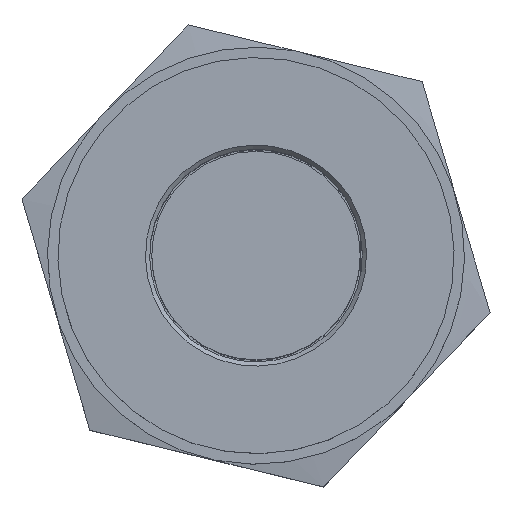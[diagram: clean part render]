
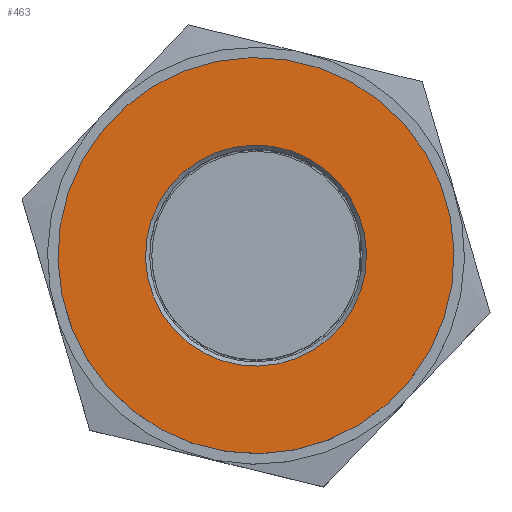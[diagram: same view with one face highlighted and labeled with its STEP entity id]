
A CAD part, top view. The second image highlights one B-rep face of the part: STEP entity #463.
In plain terms, the highlighted planar face has unit normal (0, 0, 1).
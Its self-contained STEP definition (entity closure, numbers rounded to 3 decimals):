
#463 = ADVANCED_FACE( '', ( #890, #891 ), #892, .F. );
#890 = FACE_BOUND( '', #5366, .T. );
#891 = FACE_OUTER_BOUND( '', #5367, .T. );
#892 = PLANE( '', #5368 );
#5366 = EDGE_LOOP( '', ( #6854 ) );
#5367 = EDGE_LOOP( '', ( #6855 ) );
#5368 = AXIS2_PLACEMENT_3D( '', #6856, #6857, #6858 );
#6854 = ORIENTED_EDGE( '', *, *, #7295, .T. );
#6855 = ORIENTED_EDGE( '', *, *, #7456, .F. );
#6856 = CARTESIAN_POINT( '', ( 0., 0., 10.65 ) );
#6857 = DIRECTION( '', ( 0., 0., -1. ) );
#6858 = DIRECTION( '', ( -1., 0., 0. ) );
#7295 = EDGE_CURVE( '', #7763, #7763, #7764, .T. );
#7456 = EDGE_CURVE( '', #7989, #7989, #7990, .T. );
#7763 = VERTEX_POINT( '', #8494 );
#7764 = CIRCLE( '', #8495, 2.65 );
#7989 = VERTEX_POINT( '', #13841 );
#7990 = CIRCLE( '', #13842, 4.75 );
#8494 = CARTESIAN_POINT( '', ( -2.65, 0., 10.65 ) );
#8495 = AXIS2_PLACEMENT_3D( '', #14234, #14235, #14236 );
#13841 = CARTESIAN_POINT( '', ( 0., -4.75, 10.65 ) );
#13842 = AXIS2_PLACEMENT_3D( '', #14376, #14377, #14378 );
#14234 = CARTESIAN_POINT( '', ( 0., 0., 10.65 ) );
#14235 = DIRECTION( '', ( 0., 0., -1. ) );
#14236 = DIRECTION( '', ( -1., 0., 0. ) );
#14376 = CARTESIAN_POINT( '', ( 0., 0., 10.65 ) );
#14377 = DIRECTION( '', ( 0., 0., -1. ) );
#14378 = DIRECTION( '', ( 0., -1., 0. ) );
